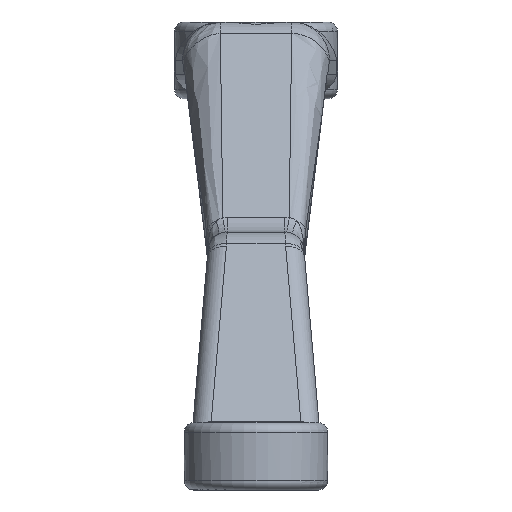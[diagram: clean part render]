
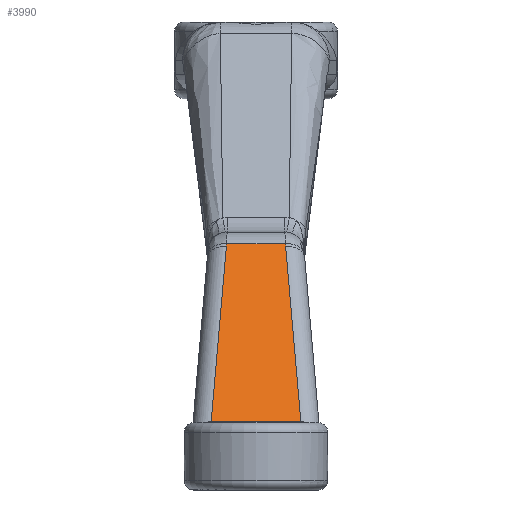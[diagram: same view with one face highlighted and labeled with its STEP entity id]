
A CAD part, left-side view. The second image highlights one B-rep face of the part: STEP entity #3990.
In plain terms, the highlighted planar face has unit normal (-0.717, 0, 0.697).
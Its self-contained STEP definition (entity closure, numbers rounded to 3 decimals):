
#448=B_SPLINE_CURVE_WITH_KNOTS($,3,(#6988,#6989,#6990,#6991),
 .UNSPECIFIED.,.F.,.F.,(4,4),(0.587,0.625),
 .UNSPECIFIED.);
#449=B_SPLINE_CURVE_WITH_KNOTS($,3,(#6995,#6996,#6997,#6998),
 .UNSPECIFIED.,.F.,.F.,(4,4),(-0.625,-0.587),
 .UNSPECIFIED.);
#783=FACE_OUTER_BOUND($,#1053,.T.);
#1053=EDGE_LOOP($,(#3249,#3250,#3251,#3252,#3253,#3254));
#1295=LINE($,#6924,#1491);
#1297=LINE($,#6986,#1493);
#1298=LINE($,#6993,#1494);
#1299=LINE($,#6999,#1495);
#1491=VECTOR($,#5002,9.346);
#1493=VECTOR($,#5018,25.571);
#1494=VECTOR($,#5019,6.13);
#1495=VECTOR($,#5020,25.571);
#1778=VERTEX_POINT($,#6894);
#1782=VERTEX_POINT($,#6923);
#1788=VERTEX_POINT($,#6985);
#1789=VERTEX_POINT($,#6987);
#1790=VERTEX_POINT($,#6992);
#1791=VERTEX_POINT($,#6994);
#2296=EDGE_CURVE($,#1778,#1782,#1295,.T.);
#2305=EDGE_CURVE($,#1788,#1778,#1297,.T.);
#2306=EDGE_CURVE($,#1789,#1788,#448,.T.);
#2307=EDGE_CURVE($,#1790,#1789,#1298,.T.);
#2308=EDGE_CURVE($,#1791,#1790,#449,.T.);
#2309=EDGE_CURVE($,#1782,#1791,#1299,.T.);
#3249=ORIENTED_EDGE($,*,*,#2296,.F.);
#3250=ORIENTED_EDGE($,*,*,#2305,.F.);
#3251=ORIENTED_EDGE($,*,*,#2306,.F.);
#3252=ORIENTED_EDGE($,*,*,#2307,.F.);
#3253=ORIENTED_EDGE($,*,*,#2308,.F.);
#3254=ORIENTED_EDGE($,*,*,#2309,.F.);
#3797=PLANE($,#4306);
#3990=ADVANCED_FACE($,(#783),#3797,.T.);
#4306=AXIS2_PLACEMENT_3D($,#6984,#5016,#5017);
#5002=DIRECTION($,(0.,1.,0.));
#5016=DIRECTION('center_axis',(-0.717,0.,0.697));
#5017=DIRECTION('ref_axis',(0.697,0.,0.717));
#5018=DIRECTION($,(-0.696,-0.062,-0.715));
#5019=DIRECTION($,(0.,-1.,0.));
#5020=DIRECTION($,(0.696,-0.062,0.715));
#6894=CARTESIAN_POINT('',(8.089,-4.673,3.605));
#6923=CARTESIAN_POINT('',(8.089,4.673,3.605));
#6924=CARTESIAN_POINT($,(8.089,0.,3.605));
#6984=CARTESIAN_POINT('Origin',(7.5,0.,3.));
#6985=CARTESIAN_POINT('',(25.885,-3.087,21.9));
#6986=CARTESIAN_POINT($,(22.958,-3.348,18.891));
#6987=CARTESIAN_POINT('',(26.149,-3.065,22.171));
#6988=CARTESIAN_POINT('Ctrl Pts',(26.149,-3.065,22.171));
#6989=CARTESIAN_POINT('Ctrl Pts',(26.061,-3.072,22.081));
#6990=CARTESIAN_POINT('Ctrl Pts',(25.973,-3.079,21.99));
#6991=CARTESIAN_POINT('Ctrl Pts',(25.885,-3.087,21.9));
#6992=CARTESIAN_POINT('',(26.149,3.065,22.171));
#6993=CARTESIAN_POINT($,(26.149,0.,22.171));
#6994=CARTESIAN_POINT('',(25.885,3.087,21.9));
#6995=CARTESIAN_POINT('Ctrl Pts',(25.885,3.087,21.9));
#6996=CARTESIAN_POINT('Ctrl Pts',(25.973,3.079,21.99));
#6997=CARTESIAN_POINT('Ctrl Pts',(26.061,3.072,22.081));
#6998=CARTESIAN_POINT('Ctrl Pts',(26.149,3.065,22.171));
#6999=CARTESIAN_POINT($,(22.958,3.348,18.891));
